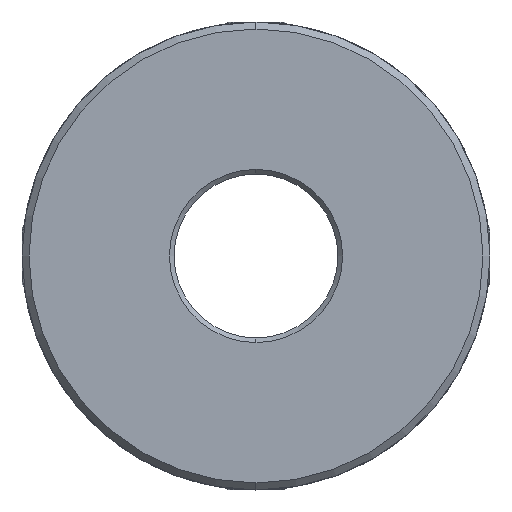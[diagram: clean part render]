
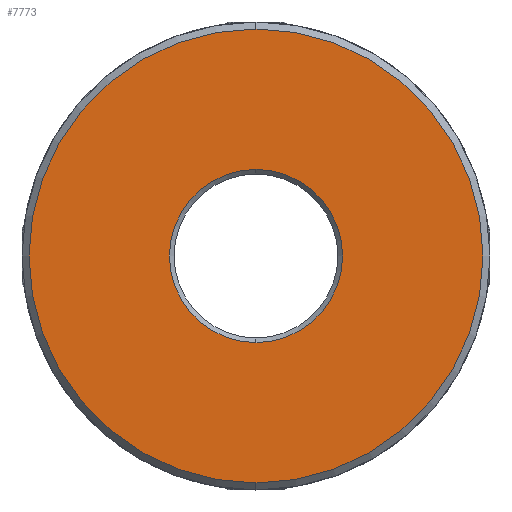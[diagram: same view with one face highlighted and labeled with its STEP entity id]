
A CAD part, front view. The second image highlights one B-rep face of the part: STEP entity #7773.
In plain terms, the highlighted planar face has unit normal (0, -1, 0).
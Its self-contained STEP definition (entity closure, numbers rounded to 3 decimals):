
#130 = ORIENTED_EDGE ( 'NONE', *, *, #5825, .T. ) ;
#207 = VERTEX_POINT ( 'NONE', #1143 ) ;
#402 = EDGE_CURVE ( 'NONE', #3955, #207, #4655, .T. ) ;
#411 = CARTESIAN_POINT ( 'NONE',  ( 24.74, 0., -50. ) ) ;
#435 = EDGE_LOOP ( 'NONE', ( #130, #4353 ) ) ;
#954 = EDGE_CURVE ( 'NONE', #6738, #4263, #990, .T. ) ;
#990 = CIRCLE ( 'NONE', #7451, 19.4 ) ;
#1143 = CARTESIAN_POINT ( 'NONE',  ( 0., 0., 7.4 ) ) ;
#1147 = DIRECTION ( 'NONE',  ( 0., 1., 0. ) ) ;
#1171 = DIRECTION ( 'NONE',  ( 0., 0., 1. ) ) ;
#1215 = DIRECTION ( 'NONE',  ( 0., -1., 0. ) ) ;
#1781 = DIRECTION ( 'NONE',  ( 0., 0., 1. ) ) ;
#1968 = CARTESIAN_POINT ( 'NONE',  ( 0., 0., 0. ) ) ;
#2066 = CARTESIAN_POINT ( 'NONE',  ( 0., 0., -7.4 ) ) ;
#2256 = FACE_OUTER_BOUND ( 'NONE', #435, .T. ) ;
#2564 = DIRECTION ( 'NONE',  ( 0., 0., 1. ) ) ;
#2722 = FACE_BOUND ( 'NONE', #7688, .T. ) ;
#2994 = DIRECTION ( 'NONE',  ( 0., 0., 1. ) ) ;
#3020 = CIRCLE ( 'NONE', #7532, 19.4 ) ;
#3288 = DIRECTION ( 'NONE',  ( 0., 1., 0. ) ) ;
#3509 = DIRECTION ( 'NONE',  ( 0., 1., 0. ) ) ;
#3568 = DIRECTION ( 'NONE',  ( 0., -1., 0. ) ) ;
#3920 = CARTESIAN_POINT ( 'NONE',  ( 0., 0., 19.4 ) ) ;
#3955 = VERTEX_POINT ( 'NONE', #2066 ) ;
#4140 = CARTESIAN_POINT ( 'NONE',  ( 0., 0., 0. ) ) ;
#4263 = VERTEX_POINT ( 'NONE', #3920 ) ;
#4353 = ORIENTED_EDGE ( 'NONE', *, *, #954, .T. ) ;
#4641 = DIRECTION ( 'NONE',  ( 0., 0., 1. ) ) ;
#4655 = CIRCLE ( 'NONE', #6486, 7.4 ) ;
#4905 = EDGE_CURVE ( 'NONE', #207, #3955, #6132, .T. ) ;
#5239 = PLANE ( 'NONE',  #6872 ) ;
#5382 = CARTESIAN_POINT ( 'NONE',  ( 0., 0., 0. ) ) ;
#5825 = EDGE_CURVE ( 'NONE', #4263, #6738, #3020, .T. ) ;
#6008 = ORIENTED_EDGE ( 'NONE', *, *, #402, .T. ) ;
#6132 = CIRCLE ( 'NONE', #7263, 7.4 ) ;
#6486 = AXIS2_PLACEMENT_3D ( 'NONE', #1968, #3288, #2564 ) ;
#6738 = VERTEX_POINT ( 'NONE', #6915 ) ;
#6841 = ORIENTED_EDGE ( 'NONE', *, *, #4905, .T. ) ;
#6872 = AXIS2_PLACEMENT_3D ( 'NONE', #411, #3509, #4641 ) ;
#6915 = CARTESIAN_POINT ( 'NONE',  ( 0., 0., -19.4 ) ) ;
#7141 = CARTESIAN_POINT ( 'NONE',  ( 0., 0., 0. ) ) ;
#7263 = AXIS2_PLACEMENT_3D ( 'NONE', #4140, #1147, #1171 ) ;
#7451 = AXIS2_PLACEMENT_3D ( 'NONE', #7141, #3568, #1781 ) ;
#7532 = AXIS2_PLACEMENT_3D ( 'NONE', #5382, #1215, #2994 ) ;
#7688 = EDGE_LOOP ( 'NONE', ( #6008, #6841 ) ) ;
#7773 = ADVANCED_FACE ( 'NONE', ( #2722, #2256 ), #5239, .F. ) ;
